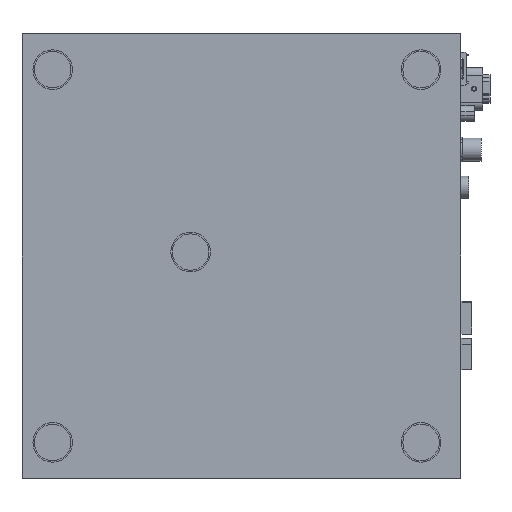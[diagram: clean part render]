
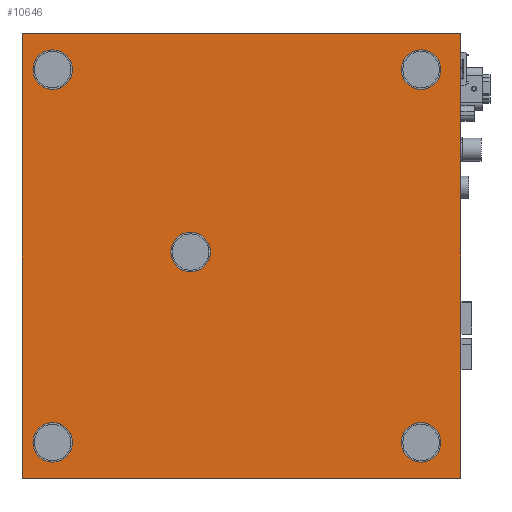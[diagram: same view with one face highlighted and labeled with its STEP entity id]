
A CAD part, left-side view. The second image highlights one B-rep face of the part: STEP entity #10646.
In plain terms, the highlighted planar face has unit normal (-1, 0, 0).
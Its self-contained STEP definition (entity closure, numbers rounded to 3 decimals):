
#734 = ORIENTED_EDGE ( 'NONE', *, *, #43328, .F. ) ;
#2055 = CARTESIAN_POINT ( 'NONE',  ( -58.806, 53.352, 54.759 ) ) ;
#2370 = DIRECTION ( 'NONE',  ( -1., 0., 0. ) ) ;
#4535 = CARTESIAN_POINT ( 'NONE',  ( -58.806, 286.352, -129.741 ) ) ;
#5559 = VERTEX_POINT ( 'NONE', #117689 ) ;
#6420 = AXIS2_PLACEMENT_3D ( 'NONE', #19079, #110712, #32212 ) ;
#9104 = EDGE_CURVE ( 'NONE', #9132, #97047, #102777, .T. ) ;
#9132 = VERTEX_POINT ( 'NONE', #42013 ) ;
#9386 = ORIENTED_EDGE ( 'NONE', *, *, #24744, .F. ) ;
#9757 = AXIS2_PLACEMENT_3D ( 'NONE', #46647, #138341, #59813 ) ;
#10646 = ADVANCED_FACE ( 'NONE', ( #101902, #32157, #167543, #132589, #97720, #62949 ), #40807, .T. ) ;
#15230 = DIRECTION ( 'NONE',  ( 0., -1., 0. ) ) ;
#16196 = DIRECTION ( 'NONE',  ( -1., 0., 0. ) ) ;
#17758 = DIRECTION ( 'NONE',  ( 0., -1., 0. ) ) ;
#18361 = LINE ( 'NONE', #77157, #49044 ) ;
#19079 = CARTESIAN_POINT ( 'NONE',  ( -58.806, 53.352, 54.759 ) ) ;
#21652 = AXIS2_PLACEMENT_3D ( 'NONE', #41382, #67732, #159410 ) ;
#22926 = DIRECTION ( 'NONE',  ( -1., 0., 0. ) ) ;
#24530 = CARTESIAN_POINT ( 'NONE',  ( -58.806, 456.852, 90.759 ) ) ;
#24744 = EDGE_CURVE ( 'NONE', #5559, #46489, #137624, .T. ) ;
#26593 = ORIENTED_EDGE ( 'NONE', *, *, #35809, .F. ) ;
#26679 = AXIS2_PLACEMENT_3D ( 'NONE', #64316, #156039, #77481 ) ;
#27628 = CARTESIAN_POINT ( 'NONE',  ( -58.806, 444.276, 54.759 ) ) ;
#29075 = ORIENTED_EDGE ( 'NONE', *, *, #148406, .F. ) ;
#29766 = EDGE_CURVE ( 'NONE', #125604, #150337, #126896, .T. ) ;
#32157 = FACE_BOUND ( 'NONE', #109523, .T. ) ;
#32212 = DIRECTION ( 'NONE',  ( 0., -1., 0. ) ) ;
#32279 = CIRCLE ( 'NONE', #79108, 18.423 ) ;
#34615 = CARTESIAN_POINT ( 'NONE',  ( -58.806, 71.776, 54.759 ) ) ;
#35809 = EDGE_CURVE ( 'NONE', #46489, #5559, #150634, .T. ) ;
#36541 = DIRECTION ( 'NONE',  ( 0., 1., 0. ) ) ;
#40807 = PLANE ( 'NONE',  #21652 ) ;
#40815 = EDGE_CURVE ( 'NONE', #47328, #49308, #46853, .T. ) ;
#41382 = CARTESIAN_POINT ( 'NONE',  ( -58.806, 456.852, 89.259 ) ) ;
#41972 = ORIENTED_EDGE ( 'NONE', *, *, #102192, .T. ) ;
#42013 = CARTESIAN_POINT ( 'NONE',  ( -58.806, 13.352, -358.241 ) ) ;
#43328 = EDGE_CURVE ( 'NONE', #101839, #112698, #67440, .T. ) ;
#45042 = AXIS2_PLACEMENT_3D ( 'NONE', #4535, #96192, #17758 ) ;
#45561 = CIRCLE ( 'NONE', #9757, 18.423 ) ;
#46489 = VERTEX_POINT ( 'NONE', #114732 ) ;
#46647 = CARTESIAN_POINT ( 'NONE',  ( -58.806, 425.852, 54.759 ) ) ;
#46853 = CIRCLE ( 'NONE', #70878, 18.423 ) ;
#47328 = VERTEX_POINT ( 'NONE', #92596 ) ;
#49044 = VECTOR ( 'NONE', #90358, 1000. ) ;
#49180 = DIRECTION ( 'NONE',  ( -1., 0., 0. ) ) ;
#49308 = VERTEX_POINT ( 'NONE', #133057 ) ;
#49533 = VECTOR ( 'NONE', #129367, 1000. ) ;
#52567 = DIRECTION ( 'NONE',  ( -1., 0., 0. ) ) ;
#53621 = LINE ( 'NONE', #24530, #49533 ) ;
#56937 = EDGE_CURVE ( 'NONE', #102009, #77301, #53621, .T. ) ;
#58694 = ORIENTED_EDGE ( 'NONE', *, *, #9104, .F. ) ;
#59813 = DIRECTION ( 'NONE',  ( 0., -1., 0. ) ) ;
#60588 = EDGE_LOOP ( 'NONE', ( #9386, #26593 ) ) ;
#62287 = ORIENTED_EDGE ( 'NONE', *, *, #29766, .F. ) ;
#62949 = FACE_OUTER_BOUND ( 'NONE', #132252, .T. ) ;
#64316 = CARTESIAN_POINT ( 'NONE',  ( -58.806, 53.352, -322.241 ) ) ;
#65246 = CIRCLE ( 'NONE', #45042, 18.423 ) ;
#67440 = CIRCLE ( 'NONE', #6420, 18.423 ) ;
#67732 = DIRECTION ( 'NONE',  ( -1., 0., 0. ) ) ;
#70878 = AXIS2_PLACEMENT_3D ( 'NONE', #94585, #16196, #107773 ) ;
#76365 = ORIENTED_EDGE ( 'NONE', *, *, #168828, .F. ) ;
#77157 = CARTESIAN_POINT ( 'NONE',  ( -58.806, 456.852, 89.259 ) ) ;
#77301 = VERTEX_POINT ( 'NONE', #94064 ) ;
#77481 = DIRECTION ( 'NONE',  ( 0., -1., 0. ) ) ;
#79108 = AXIS2_PLACEMENT_3D ( 'NONE', #2055, #93650, #15230 ) ;
#80831 = CARTESIAN_POINT ( 'NONE',  ( -58.806, 425.852, 54.759 ) ) ;
#86693 = AXIS2_PLACEMENT_3D ( 'NONE', #127678, #49180, #140905 ) ;
#89465 = CIRCLE ( 'NONE', #167279, 18.423 ) ;
#89570 = ORIENTED_EDGE ( 'NONE', *, *, #130729, .F. ) ;
#90358 = DIRECTION ( 'NONE',  ( 0., 0., -1. ) ) ;
#92596 = CARTESIAN_POINT ( 'NONE',  ( -58.806, 304.776, -129.741 ) ) ;
#93650 = DIRECTION ( 'NONE',  ( -1., 0., 0. ) ) ;
#93977 = DIRECTION ( 'NONE',  ( 0., -1., 0. ) ) ;
#94064 = CARTESIAN_POINT ( 'NONE',  ( -58.806, 13.352, 90.759 ) ) ;
#94531 = LINE ( 'NONE', #130217, #160190 ) ;
#94585 = CARTESIAN_POINT ( 'NONE',  ( -58.806, 286.352, -129.741 ) ) ;
#95825 = ORIENTED_EDGE ( 'NONE', *, *, #115670, .F. ) ;
#96192 = DIRECTION ( 'NONE',  ( -1., 0., 0. ) ) ;
#97047 = VERTEX_POINT ( 'NONE', #127694 ) ;
#97720 = FACE_BOUND ( 'NONE', #60588, .T. ) ;
#98618 = VECTOR ( 'NONE', #36541, 1000. ) ;
#101124 = EDGE_CURVE ( 'NONE', #77301, #9132, #94531, .T. ) ;
#101383 = CARTESIAN_POINT ( 'NONE',  ( -58.806, 425.852, -322.241 ) ) ;
#101839 = VERTEX_POINT ( 'NONE', #121958 ) ;
#101902 = FACE_BOUND ( 'NONE', #124179, .T. ) ;
#102009 = VERTEX_POINT ( 'NONE', #151814 ) ;
#102192 = EDGE_CURVE ( 'NONE', #102009, #97047, #18361, .T. ) ;
#102777 = LINE ( 'NONE', #154577, #98618 ) ;
#103029 = EDGE_CURVE ( 'NONE', #112698, #101839, #32279, .T. ) ;
#104441 = DIRECTION ( 'NONE',  ( 0., 0., -1. ) ) ;
#107698 = AXIS2_PLACEMENT_3D ( 'NONE', #101383, #22926, #114594 ) ;
#107773 = DIRECTION ( 'NONE',  ( 0., -1., 0. ) ) ;
#109523 = EDGE_LOOP ( 'NONE', ( #89570, #62287 ) ) ;
#110712 = DIRECTION ( 'NONE',  ( -1., 0., 0. ) ) ;
#112698 = VERTEX_POINT ( 'NONE', #34615 ) ;
#114594 = DIRECTION ( 'NONE',  ( 0., -1., 0. ) ) ;
#114732 = CARTESIAN_POINT ( 'NONE',  ( -58.806, 34.929, -322.241 ) ) ;
#115670 = EDGE_CURVE ( 'NONE', #49308, #47328, #65246, .T. ) ;
#115787 = VERTEX_POINT ( 'NONE', #125370 ) ;
#117689 = CARTESIAN_POINT ( 'NONE',  ( -58.806, 71.776, -322.241 ) ) ;
#119424 = EDGE_LOOP ( 'NONE', ( #76365, #29075 ) ) ;
#121958 = CARTESIAN_POINT ( 'NONE',  ( -58.806, 34.929, 54.759 ) ) ;
#122943 = CIRCLE ( 'NONE', #107698, 18.423 ) ;
#124179 = EDGE_LOOP ( 'NONE', ( #135004, #734 ) ) ;
#125370 = CARTESIAN_POINT ( 'NONE',  ( -58.806, 444.276, -322.241 ) ) ;
#125604 = VERTEX_POINT ( 'NONE', #160215 ) ;
#125607 = ORIENTED_EDGE ( 'NONE', *, *, #101124, .F. ) ;
#126896 = CIRCLE ( 'NONE', #161790, 18.423 ) ;
#127678 = CARTESIAN_POINT ( 'NONE',  ( -58.806, 53.352, -322.241 ) ) ;
#127694 = CARTESIAN_POINT ( 'NONE',  ( -58.806, 456.852, -358.241 ) ) ;
#129367 = DIRECTION ( 'NONE',  ( 0., -1., 0. ) ) ;
#130217 = CARTESIAN_POINT ( 'NONE',  ( -58.806, 13.352, 89.259 ) ) ;
#130729 = EDGE_CURVE ( 'NONE', #150337, #125604, #45561, .T. ) ;
#131090 = CARTESIAN_POINT ( 'NONE',  ( -58.806, 425.852, -322.241 ) ) ;
#132252 = EDGE_LOOP ( 'NONE', ( #125607, #138176, #41972, #58694 ) ) ;
#132589 = FACE_BOUND ( 'NONE', #119424, .T. ) ;
#133057 = CARTESIAN_POINT ( 'NONE',  ( -58.806, 267.929, -129.741 ) ) ;
#135004 = ORIENTED_EDGE ( 'NONE', *, *, #103029, .F. ) ;
#137624 = CIRCLE ( 'NONE', #26679, 18.423 ) ;
#138176 = ORIENTED_EDGE ( 'NONE', *, *, #56937, .F. ) ;
#138341 = DIRECTION ( 'NONE',  ( -1., 0., 0. ) ) ;
#139360 = CARTESIAN_POINT ( 'NONE',  ( -58.806, 407.429, -322.241 ) ) ;
#140905 = DIRECTION ( 'NONE',  ( 0., -1., 0. ) ) ;
#143344 = ORIENTED_EDGE ( 'NONE', *, *, #40815, .F. ) ;
#144297 = DIRECTION ( 'NONE',  ( 0., -1., 0. ) ) ;
#144722 = EDGE_LOOP ( 'NONE', ( #143344, #95825 ) ) ;
#148406 = EDGE_CURVE ( 'NONE', #160817, #115787, #122943, .T. ) ;
#150337 = VERTEX_POINT ( 'NONE', #27628 ) ;
#150634 = CIRCLE ( 'NONE', #86693, 18.423 ) ;
#151814 = CARTESIAN_POINT ( 'NONE',  ( -58.806, 456.852, 90.759 ) ) ;
#154577 = CARTESIAN_POINT ( 'NONE',  ( -58.806, 13.352, -358.241 ) ) ;
#156039 = DIRECTION ( 'NONE',  ( -1., 0., 0. ) ) ;
#159410 = DIRECTION ( 'NONE',  ( 0., -1., 0. ) ) ;
#160190 = VECTOR ( 'NONE', #104441, 1000. ) ;
#160215 = CARTESIAN_POINT ( 'NONE',  ( -58.806, 407.429, 54.759 ) ) ;
#160817 = VERTEX_POINT ( 'NONE', #139360 ) ;
#161790 = AXIS2_PLACEMENT_3D ( 'NONE', #80831, #2370, #93977 ) ;
#167279 = AXIS2_PLACEMENT_3D ( 'NONE', #131090, #52567, #144297 ) ;
#167543 = FACE_BOUND ( 'NONE', #144722, .T. ) ;
#168828 = EDGE_CURVE ( 'NONE', #115787, #160817, #89465, .T. ) ;
